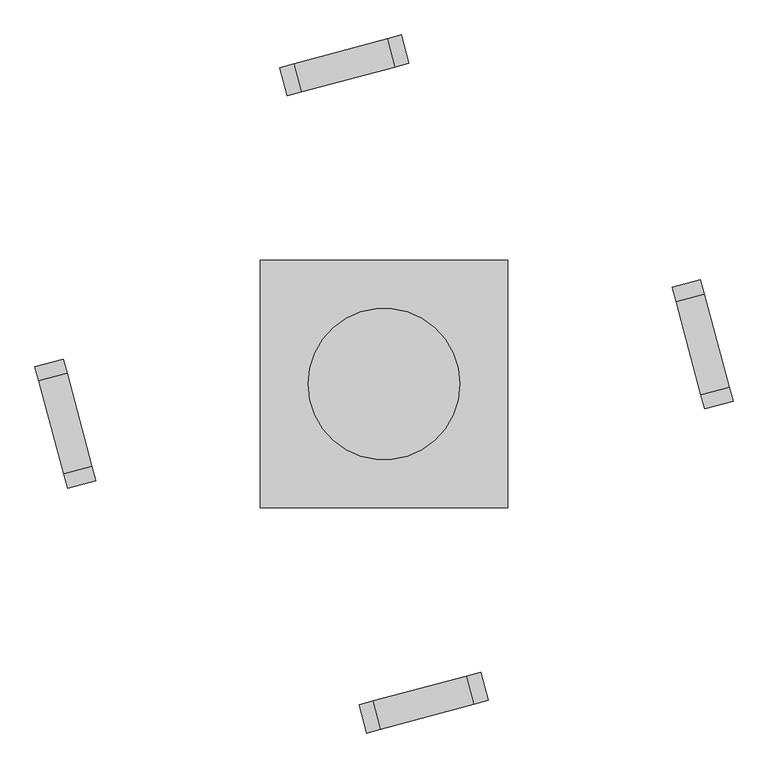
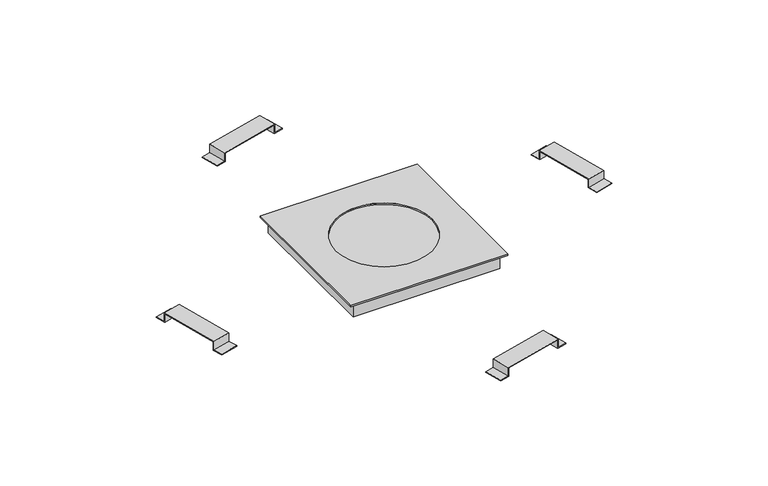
"""IFC4 building model written with IfcOpenShell, lengths in millimetres: cable carrier fitting geometry, Electrical-Installations_Hager_Universal-Junction-Box-With-Retaining-Tabs-Size-3-Angled : Universal junction box with retaining tabs size 3."""

from ifc_helpers import new_model, si_unit, frame, origin, place, context, project, spatial, polyline, circle_curve, outline, extrude, faceted_brep, source, transform, mapped, element, save
from ifc_brep_helpers import plane_surface, revolved_surface, advanced_brep


def cable_carrier_fitting_5dca8683(model_context):
    return source(origin(), model_context, "Body", "SolidModel", [
        extrude(outline(polyline([(0.0, 0.0), (32.0, 0.0), (32.0, -28.0), (222.0, -28.0), (222.0, 0.0), (253.9999999, 0.0), (253.9999999, -2.0), (223.9999999, -2.0), (223.9999999, -30.0), (29.9999999, -30.0), (29.9999999, -2.0), (0.0, -2.0), (0.0, 0.0)])), frame((-195.012503, 581.0445185, -14.0), z_axis=(-0.2588190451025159, 0.9659258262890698, 0.0), x_axis=(0.9659258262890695, 0.25881904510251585, 0.0)), (0.0, 0.0, 1.0), 59.0),
        extrude(outline(polyline([(0.0, 0.0), (0.0, -2.0), (-30.0, -2.0), (-30.0, -30.0), (-224.0, -30.0), (-224.0, -2.0), (-254.0, -2.0), (-254.0, 0.0), (-222.0, 0.0), (-222.0, -28.0), (-31.9999999, -28.0), (-31.9999999, 0.0), (0.0, 0.0)])), frame((-638.0341423, -210.2828267, -14.0), z_axis=(0.9659258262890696, 0.2588190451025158, 0.0), x_axis=(0.2588190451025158, -0.9659258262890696, 0.0)), (0.0, 0.0, 1.0), 59.0),
        extrude(outline(polyline([(0.0, 0.0), (32.0, 0.0), (32.0, -28.0), (222.0000001, -28.0), (222.0000001, 0.0), (254.0, 0.0), (254.0, -2.0), (224.0, -2.0), (224.0, -30.0), (30.0, -30.0), (30.0, -2.0), (0.0, -2.0), (0.0, 0.0)])), frame((-35.0623332, -703.7741797, -14.0), z_axis=(-0.25881904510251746, 0.9659258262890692, 0.0), x_axis=(0.9659258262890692, 0.25881904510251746, 0.0)), (0.0, 0.0, 1.0), 59.0),
        extrude(outline(polyline([(0.0, 0.0), (0.0, -2.0), (-30.0, -2.0), (-30.0, -30.0), (-224.0, -30.0), (-224.0, -2.0), (-253.9999999, -2.0), (-253.9999999, 0.0), (-222.0, 0.0), (-222.0, -28.0), (-32.0, -28.0), (-32.0, 0.0), (0.0, 0.0)])), frame((646.784556, -50.3326568, -14.0), z_axis=(0.9659258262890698, 0.2588190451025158, 0.0), x_axis=(0.2588190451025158, -0.9659258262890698, 0.0)), (0.0, 0.0, 1.0), 59.0),
        advanced_brep(
        [(-249.0, -249.0, 39.0), (249.0, -249.0, 39.0), (249.0, 249.0, 39.0), (-249.0, 249.0, 39.0), (-153.0, 0.0, 39.0), (153.0, 0.0, 39.0), (-249.0, -249.0, 34.0), (-249.0, 249.0, 34.0), (249.0, 249.0, 34.0), (249.0, -249.0, 34.0), (227.0, 227.0, 34.0), (-227.0, 227.0, 34.0), (-227.0, -227.0, 34.0), (227.0, -227.0, 34.0), (-153.0, 0.0, 34.7820613), (153.0, 0.0, 34.7820613), (227.0, 227.0, 34.7820613), (227.0, -227.0, 34.7820613), (-227.0, -227.0, 34.7820613), (-227.0, 227.0, 34.7820613)],
        [
            (0, 1),
            (1, 2),
            (2, 3),
            (3, 0),
            (4, 5, circle_curve(frame((0.0, 0.0, 39.0), z_axis=(0.0, 0.0, -1.0), x_axis=(1.0, 0.0, 0.0)), 153.0)),
            (5, 4, circle_curve(frame((0.0, 0.0, 39.0), z_axis=(0.0, 0.0, -1.0), x_axis=(1.0, 0.0, 0.0)), 153.0)),
            (6, 7),
            (7, 8),
            (8, 9),
            (9, 6),
            (10, 11),
            (11, 12),
            (12, 13),
            (13, 10),
            (0, 6),
            (9, 1),
            (8, 2),
            (7, 3),
            (4, 14),
            (14, 15, circle_curve(frame((0.0, 0.0, 34.7820613), z_axis=(0.0, 0.0, -1.0), x_axis=(1.0, 0.0, 0.0)), 153.0)),
            (15, 5),
            (15, 14, circle_curve(frame((0.0, 0.0, 34.7820613), z_axis=(0.0, 0.0, -1.0), x_axis=(1.0, 0.0, 0.0)), 153.0)),
            (16, 17),
            (17, 18),
            (18, 19),
            (19, 16),
            (19, 11),
            (10, 16),
            (18, 12),
            (17, 13),
        ],
        [
            plane_surface(frame((-249.0, -249.0, 39.0), z_axis=(0.0, 0.0, 1.0), x_axis=(1.0, 0.0, 0.0))),
            plane_surface(frame((-249.0, -249.0, 34.0), z_axis=(0.0, 0.0, -1.0), x_axis=(-1.0, 0.0, 0.0))),
            plane_surface(frame((-249.0, -249.0, 39.0), z_axis=(0.0, -1.0, 0.0), x_axis=(0.0, 0.0, -1.0))),
            plane_surface(frame((249.0, -249.0, 39.0), z_axis=(1.0, 0.0, 0.0), x_axis=(0.0, 0.0, -1.0))),
            plane_surface(frame((249.0, 249.0, 39.0), z_axis=(0.0, 1.0, 0.0), x_axis=(0.0, 0.0, -1.0))),
            plane_surface(frame((-249.0, 249.0, 39.0), z_axis=(-1.0, 0.0, 0.0), x_axis=(0.0, 0.0, -1.0))),
            revolved_surface(polyline([(153.0, 0.0, 34.7820613), (153.0, 0.0, 39.0)]), (0.0, 0.0, 0.0), (0.0, 0.0, -1.0)),
            plane_surface(frame((-227.0, 227.0, 34.7820613), z_axis=(0.0, 0.0, -1.0), x_axis=(-1.0, 0.0, 0.0))),
            plane_surface(frame((227.0, 227.0, 34.7820613), z_axis=(0.0, -1.0, 0.0), x_axis=(0.0, 0.0, -1.0))),
            plane_surface(frame((-227.0, 227.0, 34.7820613), z_axis=(1.0, 0.0, 0.0), x_axis=(0.0, 0.0, -1.0))),
            plane_surface(frame((-227.0, -227.0, 34.7820613), z_axis=(0.0, 1.0, 0.0), x_axis=(0.0, 0.0, -1.0))),
            plane_surface(frame((227.0, -227.0, 34.7820613), z_axis=(-1.0, 0.0, 0.0), x_axis=(0.0, 0.0, -1.0))),
        ],
        [
            (0, [[1, 2, 3, 4], [5, 6]]),
            (1, [[7, 8, 9, 10], [11, 12, 13, 14]]),
            (2, [[-1, 15, -10, 16]]),
            (3, [[-2, -16, -9, 17]]),
            (4, [[-3, -17, -8, 18]]),
            (5, [[-4, -18, -7, -15]]),
            (6, [[-5, 19, 20, 21]]),
            (6, [[-6, -21, 22, -19]]),
            (7, [[23, 24, 25, 26], [-20, -22]]),
            (8, [[-26, 27, -11, 28]]),
            (9, [[-25, 29, -12, -27]]),
            (10, [[-24, 30, -13, -29]]),
            (11, [[-23, -28, -14, -30]]),
        ],
    ),
        faceted_brep([(-233.0, 233.0, 34.0), (-233.0, -233.0, 34.0), (233.0, -233.0, 34.0), (233.0, 233.0, 34.0), (-227.0, 227.0, 34.0), (227.0, 227.0, 34.0), (227.0, -227.0, 34.0), (-227.0, -227.0, 34.0), (-233.0, 233.0, -14.0), (233.0, 233.0, -14.0), (233.0, -233.0, -14.0), (-233.0, -233.0, -14.0), (227.0, 227.0, -6.1362798), (-227.0, 227.0, -6.1362798), (-227.0, -227.0, -6.1362798), (227.0, -227.0, -6.1362798)], [[[0, 1, 2, 3], [4, 5, 6, 7]], [[8, 9, 10, 11]], [[1, 0, 8, 11]], [[2, 1, 11, 10]], [[3, 2, 10, 9]], [[0, 3, 9, 8]], [[12, 13, 14, 15]], [[13, 12, 5, 4]], [[14, 13, 4, 7]], [[15, 14, 7, 6]], [[12, 15, 6, 5]]]),
    ])


if __name__ == "__main__":
    model = new_model("IFC4")
    model_context = context("Model", 3, world=origin())
    ifc_project = project(units=[si_unit("LENGTHUNIT", "METRE", prefix="MILLI")], contexts=[model_context])
    site = spatial("IfcSite", under=ifc_project)
    building = spatial("IfcBuilding", under=site)
    placement = place(None, origin())
    cable_carrier_fitting_shape = cable_carrier_fitting_5dca8683(model_context)
    element("IfcCableCarrierFitting", 1, ObjectType="Electrical-Installations_Hager_Universal-Junction-Box-With-Retaining-Tabs-Size-3-Angled : Universal junction box with retaining tabs size 3", at=placement, inside=building, context=model_context, shape_type="MappedRepresentation", body=[
        mapped(cable_carrier_fitting_shape, transform((0.0, 0.0, 0.0), x_axis=(1.0, 0.0, 0.0), y_axis=(0.0, 1.0, 0.0), z_axis=(0.0, 0.0, 1.0))),
    ])
    save(model, "model.ifc")
